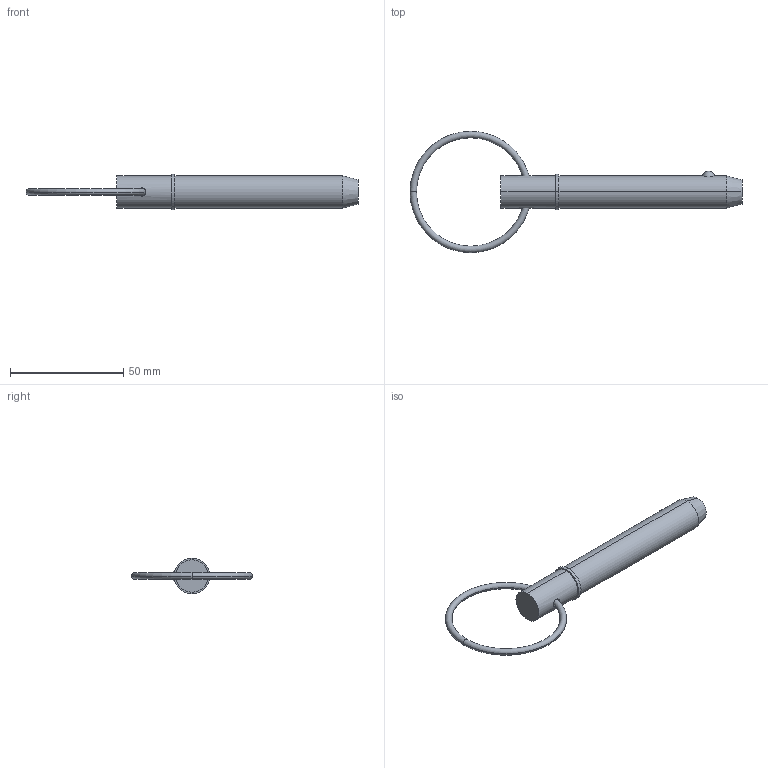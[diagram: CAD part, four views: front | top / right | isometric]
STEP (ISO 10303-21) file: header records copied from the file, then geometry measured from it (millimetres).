
FILE_DESCRIPTION (( 'STEP AP203' ), '1' );
FILE_NAME ('33014.W5625.step', '2024-11-04T08:31:54', ( '' ), ( '' ), 'SwSTEP 2.0', 'SolidWorks 2019', '' );
FILE_SCHEMA (( 'CONFIG_CONTROL_DESIGN' ));
Length unit declared in the file: millimetre
Products named in the file (3): 33014.W5625; Part2_33014.W5625; Part1_33014.W5625
Assembly tree (2 placements, depth 2):
  33014.W5625
    Part1_33014.W5625
    Part2_33014.W5625
Bounding box: 146.86 x 53.66 x 15.72 mm (x, y, z)
Volume: 17816.9 mm3; surface area: 6672 mm2
Topology: 2 solids, 2 shells, 22 faces, 43 edges, 26 vertices
Faces by surface type: torus 8, cylinder 6, plane 4, sphere 2, cone 2
Entity records: 1039 total; most frequent: CARTESIAN_POINT 262, DIRECTION 120, ORIENTED_EDGE 86, AXIS2_PLACEMENT_3D 56, EDGE_CURVE 43, CIRCLE 29, EDGE_LOOP 27, PERSON_AND_ORGANIZATION 26
